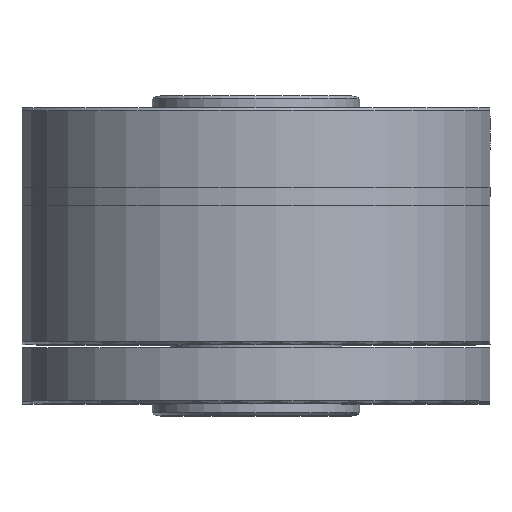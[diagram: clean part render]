
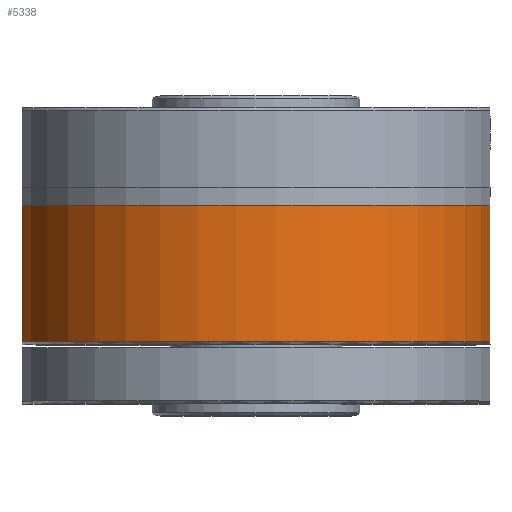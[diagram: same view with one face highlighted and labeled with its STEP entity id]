
A CAD part, top view. The second image highlights one B-rep face of the part: STEP entity #5338.
In plain terms, the highlighted cylindrical face has radius 40 mm (diameter 80 mm), a partial arc.
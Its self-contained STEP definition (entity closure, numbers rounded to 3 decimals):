
#40 = VERTEX_POINT ( 'NONE', #938 ) ;
#192 = CARTESIAN_POINT ( 'NONE',  ( -39.5, -41.5, 6.305 ) ) ;
#263 = CIRCLE ( 'NONE', #3764, 40. ) ;
#373 = DIRECTION ( 'NONE',  ( 1., 0., 0. ) ) ;
#462 = CIRCLE ( 'NONE', #3671, 40. ) ;
#714 = EDGE_CURVE ( 'NONE', #3117, #40, #263, .T. ) ;
#804 = CARTESIAN_POINT ( 'NONE',  ( 0., -1000., 0. ) ) ;
#893 = LINE ( 'NONE', #1822, #3015 ) ;
#938 = CARTESIAN_POINT ( 'NONE',  ( -39.5, -18.5, 6.305 ) ) ;
#1083 = EDGE_CURVE ( 'NONE', #1805, #3117, #893, .T. ) ;
#1206 = CARTESIAN_POINT ( 'NONE',  ( 39.5, -18.5, 6.305 ) ) ;
#1244 = DIRECTION ( 'NONE',  ( 0., -1., 0. ) ) ;
#1440 = CARTESIAN_POINT ( 'NONE',  ( 0., -41.5, 0. ) ) ;
#1548 = EDGE_CURVE ( 'NONE', #40, #4131, #3465, .T. ) ;
#1620 = FACE_OUTER_BOUND ( 'NONE', #2528, .T. ) ;
#1805 = VERTEX_POINT ( 'NONE', #5062 ) ;
#1815 = DIRECTION ( 'NONE',  ( 0., -1., 0. ) ) ;
#1822 = CARTESIAN_POINT ( 'NONE',  ( 39.5, -1000., 6.305 ) ) ;
#2235 = ORIENTED_EDGE ( 'NONE', *, *, #1083, .T. ) ;
#2528 = EDGE_LOOP ( 'NONE', ( #3854, #3517, #2235, #2669 ) ) ;
#2669 = ORIENTED_EDGE ( 'NONE', *, *, #714, .T. ) ;
#2763 = DIRECTION ( 'NONE',  ( 0., 1., 0. ) ) ;
#2901 = CYLINDRICAL_SURFACE ( 'NONE', #3957, 40. ) ;
#3015 = VECTOR ( 'NONE', #3956, 1000. ) ;
#3117 = VERTEX_POINT ( 'NONE', #1206 ) ;
#3386 = VECTOR ( 'NONE', #1815, 1000. ) ;
#3465 = LINE ( 'NONE', #4407, #3386 ) ;
#3517 = ORIENTED_EDGE ( 'NONE', *, *, #4149, .T. ) ;
#3669 = DIRECTION ( 'NONE',  ( -1., 0., 0. ) ) ;
#3671 = AXIS2_PLACEMENT_3D ( 'NONE', #1440, #2763, #3669 ) ;
#3764 = AXIS2_PLACEMENT_3D ( 'NONE', #5054, #3818, #5002 ) ;
#3818 = DIRECTION ( 'NONE',  ( 0., -1., 0. ) ) ;
#3854 = ORIENTED_EDGE ( 'NONE', *, *, #1548, .T. ) ;
#3956 = DIRECTION ( 'NONE',  ( 0., 1., 0. ) ) ;
#3957 = AXIS2_PLACEMENT_3D ( 'NONE', #804, #1244, #373 ) ;
#4131 = VERTEX_POINT ( 'NONE', #192 ) ;
#4149 = EDGE_CURVE ( 'NONE', #4131, #1805, #462, .T. ) ;
#4407 = CARTESIAN_POINT ( 'NONE',  ( -39.5, -1000., 6.305 ) ) ;
#5002 = DIRECTION ( 'NONE',  ( 1., 0., 0. ) ) ;
#5054 = CARTESIAN_POINT ( 'NONE',  ( 0., -18.5, 0. ) ) ;
#5062 = CARTESIAN_POINT ( 'NONE',  ( 39.5, -41.5, 6.305 ) ) ;
#5338 = ADVANCED_FACE ( 'NONE', ( #1620 ), #2901, .T. ) ;
